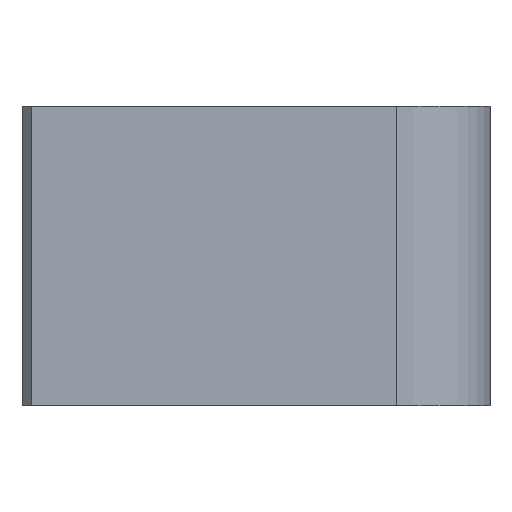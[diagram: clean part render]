
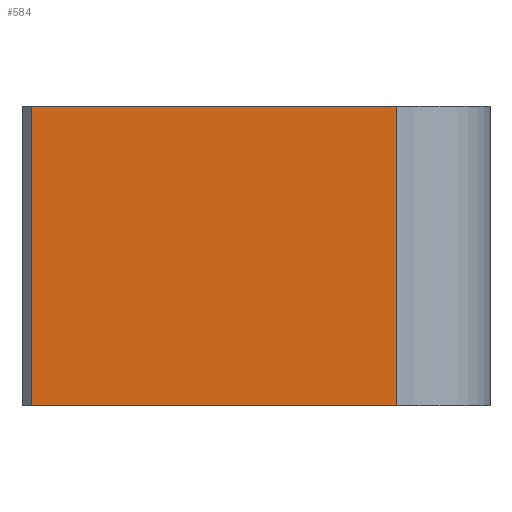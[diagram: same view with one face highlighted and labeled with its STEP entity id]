
A CAD part, left-side view. The second image highlights one B-rep face of the part: STEP entity #584.
In plain terms, the highlighted planar face has unit normal (-1, 0, 0).
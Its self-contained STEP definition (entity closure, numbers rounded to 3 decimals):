
#6 = ORIENTED_EDGE ( 'NONE', *, *, #105, .T. ) ;
#37 = CARTESIAN_POINT ( 'NONE',  ( -35.5, 18.5, 0. ) ) ;
#43 = CARTESIAN_POINT ( 'NONE',  ( -35.5, -6., 16. ) ) ;
#87 = EDGE_CURVE ( 'NONE', #678, #839, #528, .T. ) ;
#101 = CARTESIAN_POINT ( 'NONE',  ( -35.5, -1., 0. ) ) ;
#105 = EDGE_CURVE ( 'NONE', #839, #362, #470, .T. ) ;
#115 = VECTOR ( 'NONE', #414, 1000. ) ;
#131 = VECTOR ( 'NONE', #597, 1000. ) ;
#146 = CARTESIAN_POINT ( 'NONE',  ( -35.5, -6., 0. ) ) ;
#163 = CARTESIAN_POINT ( 'NONE',  ( -35.5, -1., 16. ) ) ;
#177 = CARTESIAN_POINT ( 'NONE',  ( -35.5, -6., 16. ) ) ;
#193 = PLANE ( 'NONE',  #759 ) ;
#203 = CARTESIAN_POINT ( 'NONE',  ( -35.5, 18.5, 16. ) ) ;
#208 = ORIENTED_EDGE ( 'NONE', *, *, #603, .T. ) ;
#240 = ORIENTED_EDGE ( 'NONE', *, *, #87, .T. ) ;
#244 = ORIENTED_EDGE ( 'NONE', *, *, #554, .F. ) ;
#255 = DIRECTION ( 'NONE',  ( 0., -1., 0. ) ) ;
#316 = DIRECTION ( 'NONE',  ( 1., 0., 0. ) ) ;
#362 = VERTEX_POINT ( 'NONE', #101 ) ;
#405 = DIRECTION ( 'NONE',  ( 0., 0., -1. ) ) ;
#414 = DIRECTION ( 'NONE',  ( 0., -1., 0. ) ) ;
#470 = LINE ( 'NONE', #146, #115 ) ;
#476 = LINE ( 'NONE', #163, #787 ) ;
#489 = DIRECTION ( 'NONE',  ( 0., 0., 1. ) ) ;
#519 = FACE_OUTER_BOUND ( 'NONE', #711, .T. ) ;
#528 = LINE ( 'NONE', #661, #131 ) ;
#554 = EDGE_CURVE ( 'NONE', #678, #762, #841, .T. ) ;
#584 = ADVANCED_FACE ( 'NONE', ( #519 ), #193, .F. ) ;
#597 = DIRECTION ( 'NONE',  ( 0., 0., -1. ) ) ;
#603 = EDGE_CURVE ( 'NONE', #362, #762, #476, .T. ) ;
#625 = CARTESIAN_POINT ( 'NONE',  ( -35.5, -1., 16. ) ) ;
#661 = CARTESIAN_POINT ( 'NONE',  ( -35.5, 18.5, 16. ) ) ;
#672 = VECTOR ( 'NONE', #255, 1000. ) ;
#678 = VERTEX_POINT ( 'NONE', #203 ) ;
#711 = EDGE_LOOP ( 'NONE', ( #244, #240, #6, #208 ) ) ;
#759 = AXIS2_PLACEMENT_3D ( 'NONE', #43, #316, #405 ) ;
#762 = VERTEX_POINT ( 'NONE', #625 ) ;
#787 = VECTOR ( 'NONE', #489, 1000. ) ;
#839 = VERTEX_POINT ( 'NONE', #37 ) ;
#841 = LINE ( 'NONE', #177, #672 ) ;
